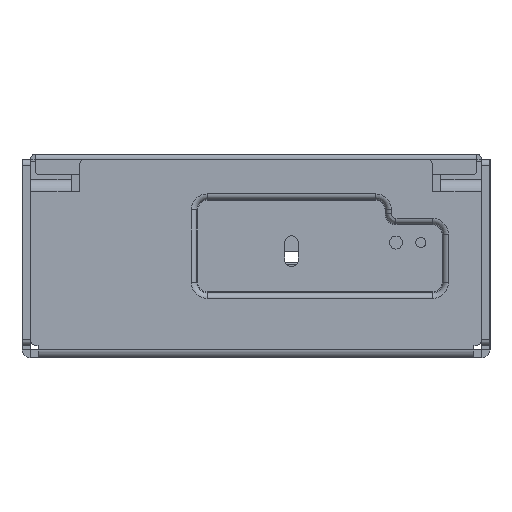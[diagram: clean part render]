
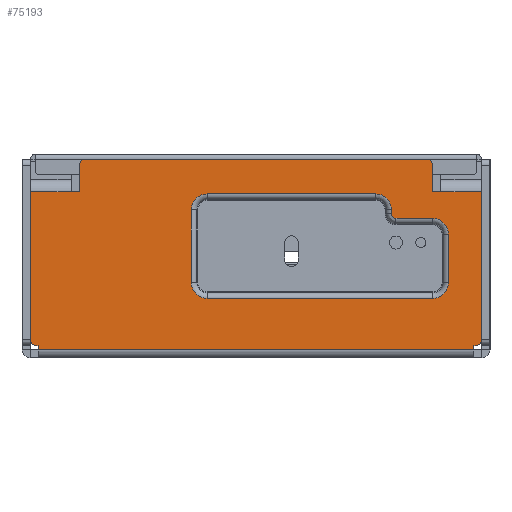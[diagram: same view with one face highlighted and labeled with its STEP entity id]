
A CAD part, left-side view. The second image highlights one B-rep face of the part: STEP entity #75193.
In plain terms, the highlighted planar face has unit normal (-1, 0, 0).
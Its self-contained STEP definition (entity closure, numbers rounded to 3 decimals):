
#68604=DIRECTION('',(0.,0.,-1.));
#68605=VECTOR('',#68604,1.);
#68606=CARTESIAN_POINT('',(0.,62.111,1.));
#68607=LINE('',#68606,#68605);
#68650=DIRECTION('',(0.,1.,0.));
#68651=VECTOR('',#68650,10.);
#68652=CARTESIAN_POINT('',(0.,54.011,38.8));
#68653=LINE('',#68652,#68651);
#68658=CARTESIAN_POINT('',(0.,50.511,45.3));
#68659=DIRECTION('',(1.,0.,0.));
#68660=DIRECTION('',(0.,1.,0.));
#68661=AXIS2_PLACEMENT_3D('',#68658,#68659,#68660);
#68663=DIRECTION('',(0.,-1.,0.));
#68664=VECTOR('',#68663,83.8);
#68665=CARTESIAN_POINT('',(0.,50.511,46.8));
#68666=LINE('',#68665,#68664);
#68667=CARTESIAN_POINT('',(0.,-33.289,45.3));
#68668=DIRECTION('',(1.,0.,0.));
#68669=DIRECTION('',(0.,0.,1.));
#68670=AXIS2_PLACEMENT_3D('',#68667,#68668,#68669);
#68672=DIRECTION('',(0.,-1.,0.));
#68673=VECTOR('',#68672,2.);
#68674=CARTESIAN_POINT('',(0.,-34.789,38.8));
#68675=LINE('',#68674,#68673);
#68676=DIRECTION('',(0.,0.,-1.));
#68677=VECTOR('',#68676,36.3);
#68678=CARTESIAN_POINT('',(0.,-46.789,38.8));
#68679=LINE('',#68678,#68677);
#68680=CARTESIAN_POINT('',(0.,-45.289,2.5));
#68681=DIRECTION('',(1.,0.,0.));
#68682=DIRECTION('',(0.,-1.,0.));
#68683=AXIS2_PLACEMENT_3D('',#68680,#68681,#68682);
#68685=DIRECTION('',(0.,1.,0.));
#68686=VECTOR('',#68685,0.4);
#68687=CARTESIAN_POINT('',(0.,-45.289,1.));
#68688=LINE('',#68687,#68686);
#68689=DIRECTION('',(0.,0.,-1.));
#68690=VECTOR('',#68689,1.);
#68691=CARTESIAN_POINT('',(0.,-44.889,1.));
#68692=LINE('',#68691,#68690);
#68693=DIRECTION('',(0.,1.,0.));
#68694=VECTOR('',#68693,0.4);
#68695=CARTESIAN_POINT('',(0.,62.111,1.));
#68696=LINE('',#68695,#68694);
#68697=CARTESIAN_POINT('',(0.,62.511,2.5));
#68698=DIRECTION('',(1.,0.,0.));
#68699=DIRECTION('',(0.,0.,-1.));
#68700=AXIS2_PLACEMENT_3D('',#68697,#68698,#68699);
#68702=DIRECTION('',(0.,0.,1.));
#68703=VECTOR('',#68702,36.3);
#68704=CARTESIAN_POINT('',(0.,64.011,2.5));
#68705=LINE('',#68704,#68703);
#68706=DIRECTION('',(0.,-1.,0.));
#68707=VECTOR('',#68706,2.);
#68708=CARTESIAN_POINT('',(0.,54.011,38.8));
#68709=LINE('',#68708,#68707);
#68710=DIRECTION('',(0.,0.,1.));
#68711=VECTOR('',#68710,6.5);
#68712=CARTESIAN_POINT('',(0.,52.011,38.8));
#68713=LINE('',#68712,#68711);
#68714=CARTESIAN_POINT('',(0.,-20.789,34.344));
#68715=DIRECTION('',(-1.,0.,0.));
#68716=DIRECTION('',(0.,-1.,0.));
#68717=AXIS2_PLACEMENT_3D('',#68714,#68715,#68716);
#68719=CARTESIAN_POINT('',(0.,20.611,34.344));
#68720=DIRECTION('',(-1.,0.,0.));
#68721=DIRECTION('',(0.,0.,1.));
#68722=AXIS2_PLACEMENT_3D('',#68719,#68720,#68721);
#68724=CARTESIAN_POINT('',(0.,20.611,16.5));
#68725=DIRECTION('',(-1.,0.,0.));
#68726=DIRECTION('',(0.,1.,0.));
#68727=AXIS2_PLACEMENT_3D('',#68724,#68725,#68726);
#68729=CARTESIAN_POINT('',(0.,-34.789,16.5));
#68730=DIRECTION('',(-1.,0.,0.));
#68731=DIRECTION('',(0.,0.,-1.));
#68732=AXIS2_PLACEMENT_3D('',#68729,#68730,#68731);
#68734=CARTESIAN_POINT('',(0.,-34.789,28.344));
#68735=DIRECTION('',(-1.,0.,0.));
#68736=DIRECTION('',(0.,-1.,0.));
#68737=AXIS2_PLACEMENT_3D('',#68734,#68735,#68736);
#68739=CARTESIAN_POINT('',(0.,-25.789,
33.344));
#68740=DIRECTION('',(1.,0.,0.));
#68741=DIRECTION('',(0.,0.,-1.));
#68742=AXIS2_PLACEMENT_3D('',#68739,#68740,#68741);
#68764=DIRECTION('',(0.,0.,1.));
#68765=VECTOR('',#68764,6.5);
#68766=CARTESIAN_POINT('',(0.,-34.789,38.8));
#68767=LINE('',#68766,#68765);
#68794=DIRECTION('',(0.,1.,0.));
#68795=VECTOR('',#68794,10.);
#68796=CARTESIAN_POINT('',(0.,-46.789,38.8));
#68797=LINE('',#68796,#68795);
#69106=DIRECTION('',(0.,-1.,0.));
#69107=VECTOR('',#69106,107.);
#69108=CARTESIAN_POINT('',(0.,62.111,0.));
#69109=LINE('',#69108,#69107);
#71339=DIRECTION('',(0.,0.,-1.));
#71340=VECTOR('',#71339,1.);
#71341=CARTESIAN_POINT('',(0.,-24.689,34.344));
#71342=LINE('',#71341,#71340);
#71376=DIRECTION('',(0.,-1.,0.));
#71377=VECTOR('',#71376,9.);
#71378=CARTESIAN_POINT('',(0.,-25.789,
32.244));
#71379=LINE('',#71378,#71377);
#71413=DIRECTION('',(0.,0.,-1.));
#71414=VECTOR('',#71413,11.844);
#71415=CARTESIAN_POINT('',(0.,-38.689,28.344));
#71416=LINE('',#71415,#71414);
#71436=DIRECTION('',(0.,1.,0.));
#71437=VECTOR('',#71436,55.4);
#71438=CARTESIAN_POINT('',(0.,-34.789,12.6));
#71439=LINE('',#71438,#71437);
#71483=DIRECTION('',(0.,0.,1.));
#71484=VECTOR('',#71483,17.844);
#71485=CARTESIAN_POINT('',(0.,24.511,16.5));
#71486=LINE('',#71485,#71484);
#71520=DIRECTION('',(0.,-1.,0.));
#71521=VECTOR('',#71520,41.4);
#71522=CARTESIAN_POINT('',(0.,20.611,38.244));
#71523=LINE('',#71522,#71521);
#72714=CARTESIAN_POINT('',(0.,-44.889,0.));
#72715=VERTEX_POINT('',#72714);
#72716=CARTESIAN_POINT('',(0.,-44.889,1.));
#72717=VERTEX_POINT('',#72716);
#73050=CARTESIAN_POINT('',(0.,62.111,0.));
#73051=VERTEX_POINT('',#73050);
#73052=CARTESIAN_POINT('',(0.,62.111,1.));
#73053=VERTEX_POINT('',#73052);
#73054=CARTESIAN_POINT('',(0.,62.511,1.));
#73055=VERTEX_POINT('',#73054);
#73056=CARTESIAN_POINT('',(0.,64.011,2.5));
#73057=VERTEX_POINT('',#73056);
#73058=CARTESIAN_POINT('',(0.,64.011,38.8));
#73059=VERTEX_POINT('',#73058);
#73064=CARTESIAN_POINT('',(0.,54.011,38.8));
#73065=VERTEX_POINT('',#73064);
#73068=CARTESIAN_POINT('',(0.,52.011,45.3));
#73069=CARTESIAN_POINT('',(0.,50.511,46.8));
#73070=VERTEX_POINT('',#73068);
#73071=VERTEX_POINT('',#73069);
#73072=CARTESIAN_POINT('',(0.,-33.289,46.8));
#73073=VERTEX_POINT('',#73072);
#73074=CARTESIAN_POINT('',(0.,-34.789,45.3));
#73075=VERTEX_POINT('',#73074);
#73076=CARTESIAN_POINT('',(0.,-34.789,38.8));
#73077=VERTEX_POINT('',#73076);
#73078=CARTESIAN_POINT('',(0.,-36.789,38.8));
#73079=VERTEX_POINT('',#73078);
#73080=CARTESIAN_POINT('',(0.,-46.789,38.8));
#73081=VERTEX_POINT('',#73080);
#73082=CARTESIAN_POINT('',(0.,-46.789,2.5));
#73083=VERTEX_POINT('',#73082);
#73084=CARTESIAN_POINT('',(0.,-45.289,1.));
#73085=VERTEX_POINT('',#73084);
#73086=CARTESIAN_POINT('',(0.,52.011,38.8));
#73087=VERTEX_POINT('',#73086);
#73088=CARTESIAN_POINT('',(0.,-24.689,34.344));
#73089=CARTESIAN_POINT('',(0.,-20.789,38.244));
#73090=VERTEX_POINT('',#73088);
#73091=VERTEX_POINT('',#73089);
#73092=CARTESIAN_POINT('',(0.,20.611,38.244));
#73093=VERTEX_POINT('',#73092);
#73094=CARTESIAN_POINT('',(0.,24.511,34.344));
#73095=VERTEX_POINT('',#73094);
#73096=CARTESIAN_POINT('',(0.,24.511,16.5));
#73097=VERTEX_POINT('',#73096);
#73098=CARTESIAN_POINT('',(0.,20.611,12.6));
#73099=VERTEX_POINT('',#73098);
#73100=CARTESIAN_POINT('',(0.,-34.789,12.6));
#73101=VERTEX_POINT('',#73100);
#73102=CARTESIAN_POINT('',(0.,-38.689,16.5));
#73103=VERTEX_POINT('',#73102);
#73104=CARTESIAN_POINT('',(0.,-38.689,28.344));
#73105=VERTEX_POINT('',#73104);
#73106=CARTESIAN_POINT('',(0.,-34.789,32.244));
#73107=VERTEX_POINT('',#73106);
#73108=CARTESIAN_POINT('',(0.,-25.789,
32.244));
#73109=VERTEX_POINT('',#73108);
#73110=CARTESIAN_POINT('',(0.,-24.689,
33.344));
#73111=VERTEX_POINT('',#73110);
#75130=CARTESIAN_POINT('',(0.,-46.889,-2.));
#75131=DIRECTION('',(-1.,0.,0.));
#75132=DIRECTION('',(0.,-1.,0.));
#75133=AXIS2_PLACEMENT_3D('',#75130,#75131,#75132);
#75134=PLANE('',#75133);
#75136=ORIENTED_EDGE('',*,*,#75135,.T.);
#75138=ORIENTED_EDGE('',*,*,#75137,.T.);
#75140=ORIENTED_EDGE('',*,*,#75139,.T.);
#75142=ORIENTED_EDGE('',*,*,#75141,.F.);
#75144=ORIENTED_EDGE('',*,*,#75143,.T.);
#75146=ORIENTED_EDGE('',*,*,#75145,.F.);
#75148=ORIENTED_EDGE('',*,*,#75147,.T.);
#75150=ORIENTED_EDGE('',*,*,#75149,.T.);
#75152=ORIENTED_EDGE('',*,*,#75151,.T.);
#75153=ORIENTED_EDGE('',*,*,#74220,.T.);
#75155=ORIENTED_EDGE('',*,*,#75154,.F.);
#75156=ORIENTED_EDGE('',*,*,#75052,.F.);
#75157=ORIENTED_EDGE('',*,*,#75065,.T.);
#75158=ORIENTED_EDGE('',*,*,#75080,.T.);
#75159=ORIENTED_EDGE('',*,*,#75093,.T.);
#75160=ORIENTED_EDGE('',*,*,#75120,.F.);
#75162=ORIENTED_EDGE('',*,*,#75161,.T.);
#75164=ORIENTED_EDGE('',*,*,#75163,.T.);
#75165=EDGE_LOOP('',(#75136,#75138,#75140,#75142,#75144,#75146,#75148,#75150,
#75152,#75153,#75155,#75156,#75157,#75158,#75159,#75160,#75162,#75164));
#75166=FACE_OUTER_BOUND('',#75165,.F.);
#75168=ORIENTED_EDGE('',*,*,#75167,.T.);
#75170=ORIENTED_EDGE('',*,*,#75169,.F.);
#75172=ORIENTED_EDGE('',*,*,#75171,.T.);
#75174=ORIENTED_EDGE('',*,*,#75173,.F.);
#75176=ORIENTED_EDGE('',*,*,#75175,.T.);
#75178=ORIENTED_EDGE('',*,*,#75177,.F.);
#75180=ORIENTED_EDGE('',*,*,#75179,.T.);
#75182=ORIENTED_EDGE('',*,*,#75181,.F.);
#75184=ORIENTED_EDGE('',*,*,#75183,.T.);
#75186=ORIENTED_EDGE('',*,*,#75185,.F.);
#75188=ORIENTED_EDGE('',*,*,#75187,.T.);
#75190=ORIENTED_EDGE('',*,*,#75189,.F.);
#75191=EDGE_LOOP('',(#75168,#75170,#75172,#75174,#75176,#75178,#75180,#75182,
#75184,#75186,#75188,#75190));
#75192=FACE_BOUND('',#75191,.F.);
#68662=CIRCLE('',#68661,1.5);
#68671=CIRCLE('',#68670,1.5);
#68684=CIRCLE('',#68683,1.5);
#68701=CIRCLE('',#68700,1.5);
#68718=CIRCLE('',#68717,3.9);
#68723=CIRCLE('',#68722,3.9);
#68728=CIRCLE('',#68727,3.9);
#68733=CIRCLE('',#68732,3.9);
#68738=CIRCLE('',#68737,3.9);
#68743=CIRCLE('',#68742,1.1);
#74220=EDGE_CURVE('',#72717,#72715,#68692,.T.);
#75052=EDGE_CURVE('',#73053,#73051,#68607,.T.);
#75065=EDGE_CURVE('',#73053,#73055,#68696,.T.);
#75080=EDGE_CURVE('',#73055,#73057,#68701,.T.);
#75093=EDGE_CURVE('',#73057,#73059,#68705,.T.);
#75120=EDGE_CURVE('',#73065,#73059,#68653,.T.);
#75135=EDGE_CURVE('',#73070,#73071,#68662,.T.);
#75137=EDGE_CURVE('',#73071,#73073,#68666,.T.);
#75139=EDGE_CURVE('',#73073,#73075,#68671,.T.);
#75141=EDGE_CURVE('',#73077,#73075,#68767,.T.);
#75143=EDGE_CURVE('',#73077,#73079,#68675,.T.);
#75145=EDGE_CURVE('',#73081,#73079,#68797,.T.);
#75147=EDGE_CURVE('',#73081,#73083,#68679,.T.);
#75149=EDGE_CURVE('',#73083,#73085,#68684,.T.);
#75151=EDGE_CURVE('',#73085,#72717,#68688,.T.);
#75154=EDGE_CURVE('',#73051,#72715,#69109,.T.);
#75161=EDGE_CURVE('',#73065,#73087,#68709,.T.);
#75163=EDGE_CURVE('',#73087,#73070,#68713,.T.);
#75167=EDGE_CURVE('',#73090,#73091,#68718,.T.);
#75169=EDGE_CURVE('',#73093,#73091,#71523,.T.);
#75171=EDGE_CURVE('',#73093,#73095,#68723,.T.);
#75173=EDGE_CURVE('',#73097,#73095,#71486,.T.);
#75175=EDGE_CURVE('',#73097,#73099,#68728,.T.);
#75177=EDGE_CURVE('',#73101,#73099,#71439,.T.);
#75179=EDGE_CURVE('',#73101,#73103,#68733,.T.);
#75181=EDGE_CURVE('',#73105,#73103,#71416,.T.);
#75183=EDGE_CURVE('',#73105,#73107,#68738,.T.);
#75185=EDGE_CURVE('',#73109,#73107,#71379,.T.);
#75187=EDGE_CURVE('',#73109,#73111,#68743,.T.);
#75189=EDGE_CURVE('',#73090,#73111,#71342,.T.);
#75193=ADVANCED_FACE('',(#75166,#75192),#75134,.T.);
